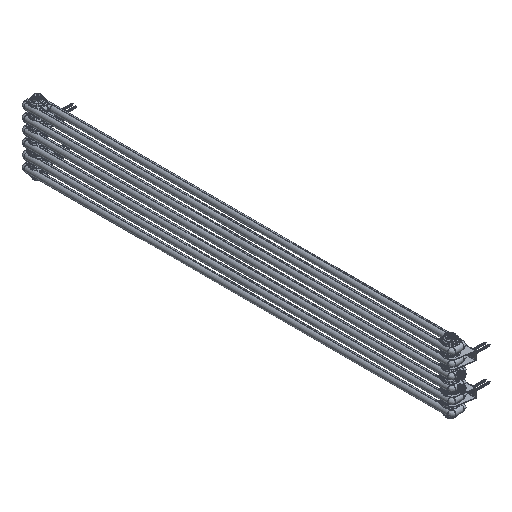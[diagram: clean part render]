
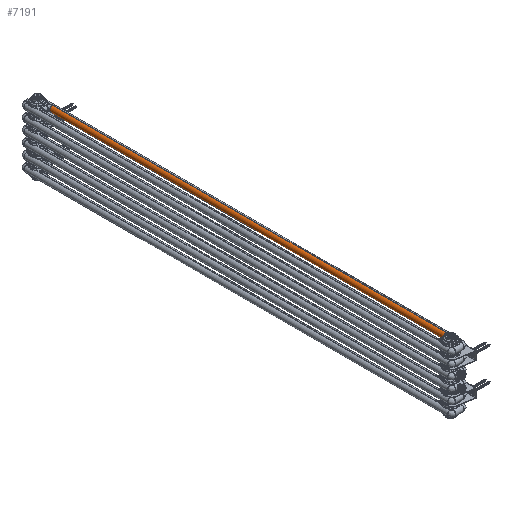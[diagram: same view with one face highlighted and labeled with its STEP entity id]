
A CAD part, isometric view. The second image highlights one B-rep face of the part: STEP entity #7191.
In plain terms, the highlighted cylindrical face has radius 12.5 mm (diameter 25 mm), a partial arc.
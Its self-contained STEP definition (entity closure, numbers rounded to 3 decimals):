
#2258=CYLINDRICAL_SURFACE('',#51123,12.5);
#4043=CIRCLE('',#51104,12.5);
#4045=CIRCLE('',#51107,12.5);
#4053=CIRCLE('',#51121,12.5);
#4054=CIRCLE('',#51122,12.5);
#7191=ADVANCED_FACE('',(#10668),#2258,.T.);
#10668=FACE_OUTER_BOUND('',#13726,.T.);
#13726=EDGE_LOOP('',(#28666,#28667,#28668,#28669,#28670,#28671));
#28666=ORIENTED_EDGE('',*,*,#42088,.F.);
#28667=ORIENTED_EDGE('',*,*,#42089,.F.);
#28668=ORIENTED_EDGE('',*,*,#42090,.F.);
#28669=ORIENTED_EDGE('',*,*,#42080,.F.);
#28670=ORIENTED_EDGE('',*,*,#42067,.T.);
#28671=ORIENTED_EDGE('',*,*,#42065,.T.);
#35457=VERTEX_POINT('',#164676);
#35458=VERTEX_POINT('',#164678);
#35459=VERTEX_POINT('',#164682);
#35463=VERTEX_POINT('',#165000);
#35470=VERTEX_POINT('',#165071);
#35471=VERTEX_POINT('',#165075);
#42065=EDGE_CURVE('',#35458,#35457,#4043,.T.);
#42067=EDGE_CURVE('',#35459,#35458,#4045,.T.);
#42080=EDGE_CURVE('',#35459,#35463,#45391,.T.);
#42088=EDGE_CURVE('',#35470,#35457,#45396,.T.);
#42089=EDGE_CURVE('',#35471,#35470,#4053,.T.);
#42090=EDGE_CURVE('',#35463,#35471,#4054,.T.);
#45391=LINE('',#164999,#47462);
#45396=LINE('',#165072,#47467);
#47462=VECTOR('',#60206,1.);
#47467=VECTOR('',#60213,1.);
#51104=AXIS2_PLACEMENT_3D('',#164677,#60172,#60173);
#51107=AXIS2_PLACEMENT_3D('',#164681,#60178,#60179);
#51121=AXIS2_PLACEMENT_3D('',#165074,#60216,#60217);
#51122=AXIS2_PLACEMENT_3D('',#165076,#60218,#60219);
#51123=AXIS2_PLACEMENT_3D('',#165077,#60220,#60221);
#60172=DIRECTION('',(0.,1.,0.));
#60173=DIRECTION('',(-1.,0.,0.));
#60178=DIRECTION('',(0.,1.,0.));
#60179=DIRECTION('',(0.,0.,-1.));
#60206=DIRECTION('',(0.,1.,0.));
#60213=DIRECTION('',(0.,-1.,0.));
#60216=DIRECTION('',(0.,1.,0.));
#60217=DIRECTION('',(-1.,0.,0.));
#60218=DIRECTION('',(0.,1.,0.));
#60219=DIRECTION('',(0.,0.,-1.));
#60220=DIRECTION('',(0.,1.,0.));
#60221=DIRECTION('',(0.,0.,1.));
#164676=CARTESIAN_POINT('',(57.5,79.5,-785.));
#164677=CARTESIAN_POINT('',(57.5,79.5,-797.5));
#164678=CARTESIAN_POINT('',(45.,79.5,-797.5));
#164681=CARTESIAN_POINT('',(57.5,79.5,-797.5));
#164682=CARTESIAN_POINT('',(57.5,79.5,-810.));
#164999=CARTESIAN_POINT('',(57.5,79.5,-810.));
#165000=CARTESIAN_POINT('',(57.5,1723.5,-810.));
#165071=CARTESIAN_POINT('',(57.5,1723.5,-785.));
#165072=CARTESIAN_POINT('',(57.5,523.5,-785.));
#165074=CARTESIAN_POINT('',(57.5,1723.5,-797.5));
#165075=CARTESIAN_POINT('',(45.,1723.5,-797.5));
#165076=CARTESIAN_POINT('',(57.5,1723.5,-797.5));
#165077=CARTESIAN_POINT('',(57.5,79.5,-797.5));
